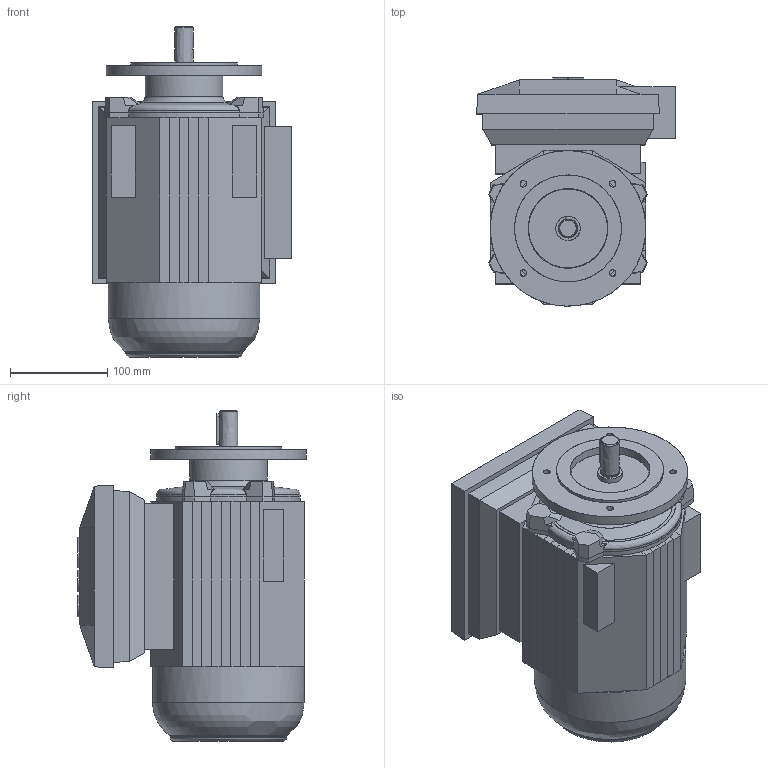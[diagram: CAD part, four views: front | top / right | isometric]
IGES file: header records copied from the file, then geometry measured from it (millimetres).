
Start section: Maximum GME point tolerance:  0.01 Minimum GME point tolerance:  0.01
Global section: file name: M3KP80_IGES.igs; native system: I-DEAS 9 m3; preprocessor: IGES 5.3; author: NONE; organization: NONE; date: 040528.111013; units: millimetre
Bounding box: 204.45 x 235 x 340 mm (x, y, z)
Surface area: 307081.4 mm2 (no closed solid volume)
Topology: 0 solids, 0 shells, 335 faces, 1747 edges, 1700 vertices
Faces by surface type: bspline 335
